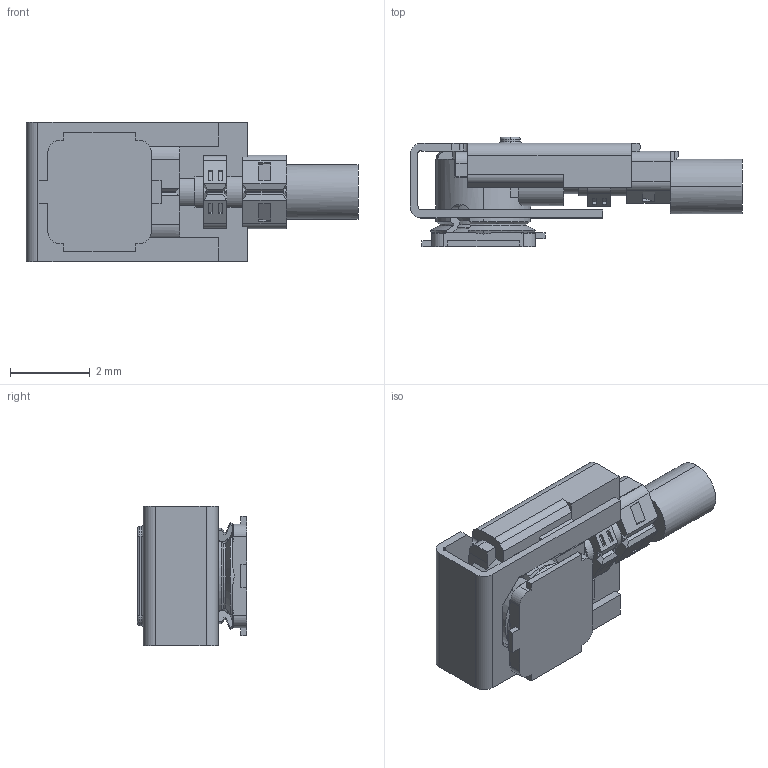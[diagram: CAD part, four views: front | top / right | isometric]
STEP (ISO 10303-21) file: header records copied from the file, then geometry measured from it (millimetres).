
FILE_DESCRIPTION (( 'STEP AP203' ), '1' );
FILE_NAME ('20351-1xxR-37+3376-000x+20279-001E-0xC MATING (LOCK) STEP R8R0R9 ALL.STEP', '2023-11-08T05:52:41', ( '' ), ( '' ), 'SwSTEP 2.0', 'SolidWorks 2023', '' );
FILE_SCHEMA (( 'CONFIG_CONTROL_DESIGN' ));
Length unit declared in the file: millimetre
Products named in the file (1): 20351-1xxR-37+3376-000x+20279-001E-0xC MATING (LOCK) STEP R8R0R9 ALL
Bounding box: 8.35 x 2.75 x 3.5 mm (x, y, z)
Volume: 34.2 mm3; surface area: 125 mm2
Topology: 1 solids, 1 shells, 328 faces, 926 edges, 602 vertices
Faces by surface type: plane 214, cylinder 85, cone 22, torus 7
Entity records: 10755 total; most frequent: CARTESIAN_POINT 2135, ORIENTED_EDGE 1852, DIRECTION 1726, EDGE_CURVE 926, VECTOR 636, LINE 636, VERTEX_POINT 602, AXIS2_PLACEMENT_3D 545
